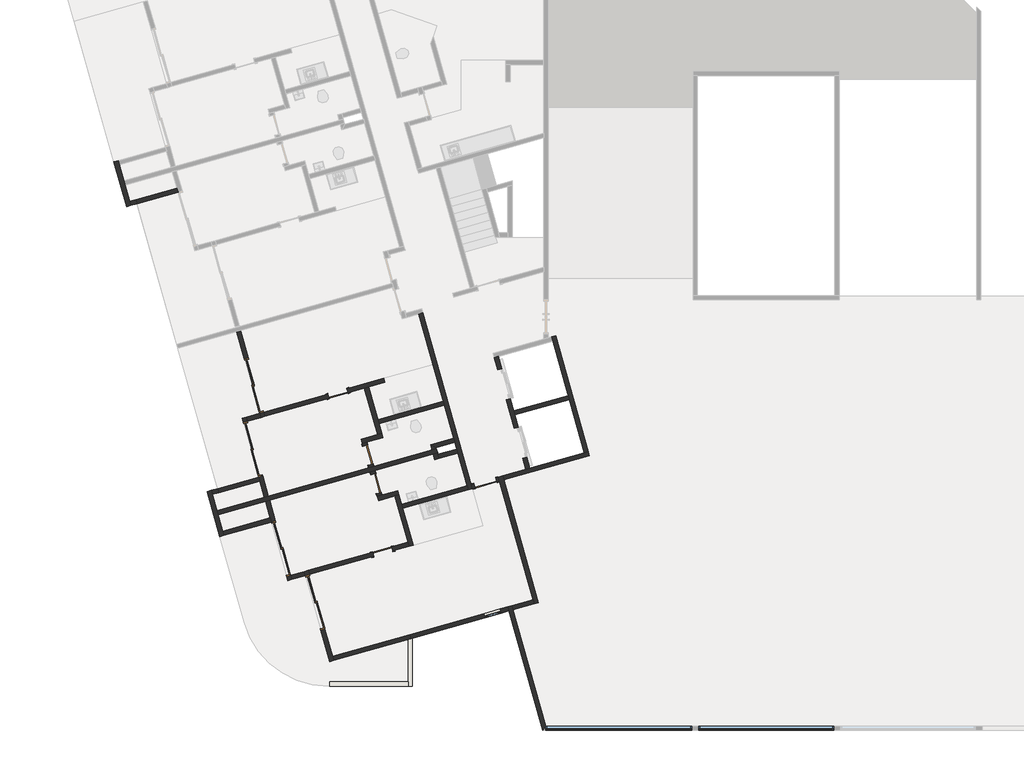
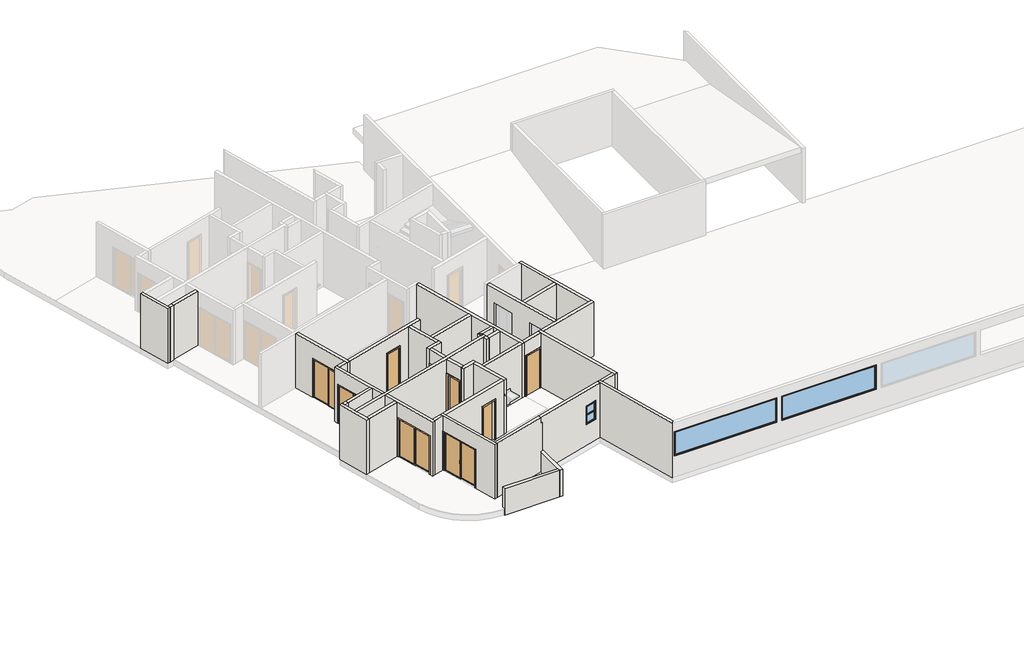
# One storey, part 1 of 4: 41 walls, 9 doors, 3 windows.
"""IFC4 building model written with IfcOpenShell, lengths in millimetres."""

from ifc_helpers import new_model, si_unit, frame, origin, place, context, project, spatial, polyline, outline, extrude, faceted_brep, transform, mapped, element, save
from components import p2_80cm_9d4be4ef, p3_70cm_ef4d15e3, p3_70cm_0a698c7c, p4_correr_200cm_eaaa0877, p4_correr_200cm_830b8f20, bx_60cm_cef95a5c, m_fixo1_jf_4_75m_a83b1cd6, m_fixo1_jf_5_15m_51e2bce7

model = new_model("IFC4")

# Units and contexts
model_context = context("Model", 3, world=origin())
ifc_project = project(units=[si_unit("LENGTHUNIT", "METRE", prefix="MILLI")], contexts=[model_context])

# Site, building, storey
site = spatial("IfcSite", under=ifc_project)
building = spatial("IfcBuilding", under=site)
storey = spatial("IfcBuildingStorey", under=building, Name="Garagem 4", Elevation=39150.0)

# Doors
placement = place(None, origin())
p2_80cm_shape = p2_80cm_9d4be4ef(model_context)
element("IfcDoor", 1, ObjectType="M_Folha única1 : P2 - 80CM", at=placement, inside=storey, context=model_context, shape_type="MappedRepresentation", body=[
    mapped(p2_80cm_shape, transform((-77213.6668366, 12144.847648, 39150.0), x_axis=(0.9623628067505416, 0.2717679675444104, 0.0), y_axis=(-0.2717679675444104, 0.9623628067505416, 0.0), z_axis=(0.0, 0.0, 1.0))),
])
p3_70cm_shape = p3_70cm_ef4d15e3(model_context)
element("IfcDoor", 2, ObjectType="M_Folha única1 : P3 - 70CM", at=placement, inside=storey, context=model_context, shape_type="MappedRepresentation", body=[
    mapped(p3_70cm_shape, transform((-80840.7851368, 9718.5269225, 39150.0), x_axis=(0.9623628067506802, 0.2717679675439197, 0.0), y_axis=(-0.2717679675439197, 0.9623628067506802, 0.0), z_axis=(0.0, 0.0, 1.0))),
])
element("IfcDoor", 3, ObjectType="M_Folha única1 : P3 - 70CM", at=placement, inside=storey, context=model_context, shape_type="MappedRepresentation", body=[
    mapped(p3_70cm_shape, transform((-81362.5862327, 13130.1209218, 39150.0), x_axis=(0.271767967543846, -0.9623628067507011, 0.0), y_axis=(0.9623628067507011, 0.271767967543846, 0.0), z_axis=(0.0, 0.0, 1.0))),
])
p3_70cm_2_shape = p3_70cm_0a698c7c(model_context)
element("IfcDoor", 4, ObjectType="M_Folha única1 : P3 - 70CM", at=placement, inside=storey, context=model_context, shape_type="MappedRepresentation", body=[
    mapped(p3_70cm_2_shape, transform((-81077.2298668, 12119.6399747, 39150.0), x_axis=(-0.27176796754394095, 0.9623628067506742, 0.0), y_axis=(-0.9623628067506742, -0.27176796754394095, 0.0), z_axis=(0.0, 0.0, 1.0))),
])
element("IfcDoor", 5, ObjectType="M_Folha única1 : P3 - 70CM", at=placement, inside=storey, context=model_context, shape_type="MappedRepresentation", body=[
    mapped(p3_70cm_2_shape, transform((-82417.0393485, 15300.2312016, 39150.0), x_axis=(0.9623628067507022, 0.27176796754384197, 0.0), y_axis=(-0.27176796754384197, 0.9623628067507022, 0.0), z_axis=(0.0, 0.0, 1.0))),
])
p4_correr_200cm_shape = p4_correr_200cm_eaaa0877(model_context)
element("IfcDoor", 6, ObjectType="Porta de correr dupla envidraçada sem revestimento : P4 - CORRER - 200CM", at=placement, inside=storey, context=model_context, shape_type="MappedRepresentation", body=[
    mapped(p4_correr_200cm_shape, transform((-84429.028315, 9822.2616509, 39150.0), x_axis=(-0.27176796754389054, 0.9623628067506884, 0.0), y_axis=(-0.9623628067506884, -0.27176796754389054, 0.0), z_axis=(0.0, 0.0, 1.0))),
])
element("IfcDoor", 7, ObjectType="Porta de correr dupla envidraçada sem revestimento : P4 - CORRER - 200CM", at=placement, inside=storey, context=model_context, shape_type="MappedRepresentation", body=[
    mapped(p4_correr_200cm_shape, transform((-83223.012588, 7928.7516937, 39150.0), x_axis=(-0.2717679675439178, 0.9623628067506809, 0.0), y_axis=(-0.9623628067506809, -0.2717679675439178, 0.0), z_axis=(0.0, 0.0, 1.0))),
])
p4_correr_200cm_2_shape = p4_correr_200cm_830b8f20(model_context)
element("IfcDoor", 8, ObjectType="Porta de correr dupla envidraçada sem revestimento : P4 - CORRER - 200CM", at=placement, inside=storey, context=model_context, shape_type="MappedRepresentation", body=[
    mapped(p4_correr_200cm_2_shape, transform((-85383.5679299, 15579.5360073, 39150.0), x_axis=(-0.2717679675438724, 0.9623628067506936, 0.0), y_axis=(-0.9623628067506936, -0.2717679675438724, 0.0), z_axis=(0.0, 0.0, 1.0))),
])
element("IfcDoor", 9, ObjectType="Porta de correr dupla envidraçada sem revestimento : P4 - CORRER - 200CM", at=placement, inside=storey, context=model_context, shape_type="MappedRepresentation", body=[
    mapped(p4_correr_200cm_2_shape, transform((-85420.9813965, 13334.8858955, 39150.0), x_axis=(-0.27176796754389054, 0.9623628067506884, 0.0), y_axis=(-0.9623628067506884, -0.27176796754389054, 0.0), z_axis=(0.0, 0.0, 1.0))),
])

# Walls
element("IfcWall", 10, ObjectType="Básica .15 -  Interna", at=placement, inside=storey, context=model_context, shape_type="Brep", body=[
    faceted_brep([(-75344.9919691, 7919.3931149, 39150.0), (-76567.7484146, 12249.3196164, 39150.0), (-76608.5136097, 12393.6740374, 39150.0), (-76608.5136097, 12393.6740374, 42050.0), (-76567.7484146, 12249.3196164, 42050.0), (-75344.9919691, 7919.3931149, 42050.0), (-75489.3463901, 7878.6279198, 39150.0), (-75489.3463901, 7878.6279198, 42050.0), (-75530.1115852, 8022.9823408, 42050.0), (-76712.1028356, 12208.5544213, 42050.0), (-76752.8680308, 12352.9088423, 42050.0), (-76752.8680308, 12352.9088423, 39150.0), (-76712.1028356, 12208.5544213, 39150.0), (-75530.1115852, 8022.9823408, 39150.0)], [[[0, 1, 2, 3, 4, 5]], [[6, 7, 8, 9, 10, 11, 12, 13]], [[2, 1, 0, 6, 13, 12, 11]], [[5, 4, 3, 10, 9, 8, 7]], [[3, 2, 11, 10]], [[0, 5, 7, 6]]]),
])
element("IfcWall", 11, ObjectType="Básica .15 -  Interna", at=placement, inside=storey, context=model_context, shape_type="Brep", body=[
    faceted_brep([(-79571.9228624, 18103.967491, 39150.0), (-78702.2653663, 15024.4065094, 39150.0), (-78661.5001712, 14880.0520884, 39150.0), (-78335.3786101, 13725.2167203, 39150.0), (-78294.613415, 13580.8622993, 39150.0), (-78226.6714231, 13340.2715976, 39150.0), (-78185.906228, 13195.9171766, 39150.0), (-77818.8200634, 11896.0212586, 39150.0), (-77818.8200634, 11896.0212586, 42050.0), (-78185.906228, 13195.9171766, 42050.0), (-78226.6714231, 13340.2715976, 42050.0), (-78294.613415, 13580.8622993, 42050.0), (-78335.3786101, 13725.2167203, 42050.0), (-78661.5001712, 14880.0520884, 42050.0), (-78702.2653663, 15024.4065094, 42050.0), (-79571.9228624, 18103.967491, 42050.0), (-79427.5684414, 18144.7326862, 39150.0), (-79427.5684414, 18144.7326862, 42050.0), (-77715.2308375, 12081.1408747, 42050.0), (-77674.4656424, 11936.7864537, 42050.0), (-77674.4656424, 11936.7864537, 39150.0), (-77715.2308375, 12081.1408747, 39150.0)], [[[0, 1, 2, 3, 4, 5, 6, 7, 8, 9, 10, 11, 12, 13, 14, 15]], [[16, 17, 18, 19, 20, 21]], [[7, 6, 5, 4, 3, 2, 1, 0, 16, 21, 20]], [[15, 14, 13, 12, 11, 10, 9, 8, 19, 18, 17]], [[0, 15, 17, 16]], [[8, 7, 20, 19]]]),
])
element("IfcWall", 12, ObjectType="Básica .15 -  Interna", at=placement, inside=storey, context=model_context, shape_type="Brep", body=[
    faceted_brep([(-85017.5646639, 11630.3683862, 42050.0), (-85180.6254444, 12207.7860702, 42050.0), (-85221.3906395, 12352.1404912, 42050.0), (-85805.6917697, 14421.2205257, 42050.0), (-85805.6917697, 14421.2205257, 39150.0), (-85764.9265746, 14276.8661047, 39150.0), (-85764.9265746, 14276.8661047, 41250.0), (-85221.3906395, 12352.1404912, 41250.0), (-85221.3906395, 12352.1404912, 39150.0), (-85180.6254444, 12207.7860702, 39150.0), (-85017.5646639, 11630.3683862, 39150.0), (-85661.3373487, 14461.9857209, 42050.0), (-85620.5721536, 14317.6312998, 42050.0), (-84873.2102428, 11671.1335813, 42050.0), (-84873.2102428, 11671.1335813, 39150.0), (-85077.0362185, 12392.9056863, 39150.0), (-85077.0362185, 12392.9056863, 41250.0), (-85620.5721536, 14317.6312998, 41250.0), (-85620.5721536, 14317.6312998, 39150.0), (-85661.3373487, 14461.9857209, 39150.0)], [[[0, 1, 2, 3, 4, 5, 6, 7, 8, 9, 10]], [[11, 12, 13, 14, 15, 16, 17, 18, 19]], [[4, 19, 18, 5]], [[14, 10, 9, 8, 15]], [[3, 2, 1, 0, 13, 12, 11]], [[4, 3, 11, 19]], [[0, 10, 14, 13]], [[17, 6, 5, 18]], [[6, 17, 16, 7]], [[7, 16, 15, 8]]]),
])
element("IfcWall", 13, ObjectType="Básica .15 -  Interna", at=placement, inside=storey, context=model_context, shape_type="Brep", body=[
    faceted_brep([(-82710.8886682, 5839.2890616, 42050.0), (-83566.957766, 8870.7319029, 42050.0), (-83607.7229611, 9015.0863239, 42050.0), (-83607.7229611, 9015.0863239, 39150.0), (-83566.957766, 8870.7319029, 39150.0), (-83566.957766, 8870.7319029, 41250.0), (-83023.4218309, 6946.0062894, 41250.0), (-83023.4218309, 6946.0062894, 39150.0), (-82710.8886682, 5839.2890616, 39150.0), (-83463.3685401, 9055.851519, 42050.0), (-83422.603345, 8911.497098, 42050.0), (-82607.2994424, 6024.4086777, 42050.0), (-82566.5342472, 5880.0542567, 42050.0), (-82566.5342472, 5880.0542567, 39150.0), (-82607.2994424, 6024.4086777, 39150.0), (-82879.0674099, 6986.7714845, 39150.0), (-82879.0674099, 6986.7714845, 41250.0), (-83422.603345, 8911.497098, 41250.0), (-83422.603345, 8911.497098, 39150.0), (-83463.3685401, 9055.851519, 39150.0)], [[[0, 1, 2, 3, 4, 5, 6, 7, 8]], [[9, 10, 11, 12, 13, 14, 15, 16, 17, 18, 19]], [[3, 19, 18, 4]], [[13, 8, 7, 15, 14]], [[2, 1, 0, 12, 11, 10, 9]], [[3, 2, 9, 19]], [[0, 8, 13, 12]], [[17, 5, 4, 18]], [[5, 17, 16, 6]], [[6, 16, 15, 7]]]),
])
element("IfcWall", 14, ObjectType="Básica .15 - Externa", at=placement, inside=storey, context=model_context, shape_type="Brep", body=[
    faceted_brep([(-79945.4990038, 6620.2256515, 40250.0), (-79945.4990038, 6620.2256515, 39150.0), (-79945.4990038, 6620.2256515, 38850.0), (-79945.4990038, 5119.4122055, 38850.0), (-79945.4990038, 4969.4122055, 38850.0), (-79945.4990038, 4969.4122055, 40250.0), (-79945.4990038, 5119.4122055, 40250.0), (-79795.4990038, 6662.5851389, 38850.0), (-79795.4990038, 6662.5851389, 40250.0), (-79795.4990038, 4969.4122055, 40250.0), (-79795.4990038, 4969.4122055, 38850.0), (-79850.1164062, 6647.1613711, 38850.0)], [[[0, 1, 2, 3, 4, 5, 6]], [[7, 8, 9, 10]], [[4, 3, 2, 11, 7, 10]], [[0, 6, 5, 9, 8]], [[5, 4, 10, 9]], [[0, 8, 7, 11, 2, 1]]]),
])
element("IfcWall", 15, ObjectType="Básica .15 - Externa", at=placement, inside=storey, context=model_context, shape_type="SweptSolid", body=[
    extrude(outline(polyline([(-82713.5540687, 5119.4122055), (-79945.4990038, 5119.4122055), (-79945.4990038, 4969.4122055), (-82713.5540687, 4969.4122055), (-82713.5540687, 5119.4122055)])), frame((0.0, 0.0, 38850.0), z_axis=(0.0, 0.0, 1.0), x_axis=(1.0, 0.0, 0.0)), (0.0, 0.0, 1.0), 1400.0),
])
element("IfcWall", 16, ObjectType="Básica .15 -  Interna", at=placement, inside=storey, context=model_context, shape_type="Brep", body=[
    faceted_brep([(-73581.8825825, 13248.3842954, 39150.0), (-73726.2370035, 13207.6191002, 39150.0), (-75646.150803, 12665.442005, 39150.0), (-75790.505224, 12624.6768098, 39150.0), (-76608.5136097, 12393.6740374, 39150.0), (-76608.5136097, 12393.6740374, 42050.0), (-75790.505224, 12624.6768098, 42050.0), (-75646.150803, 12665.442005, 42050.0), (-73726.2370035, 13207.6191002, 42050.0), (-73581.8825825, 13248.3842954, 42050.0), (-73541.1173874, 13104.0298743, 39150.0), (-73541.1173874, 13104.0298743, 42050.0), (-76567.7484146, 12249.3196164, 42050.0), (-76567.7484146, 12249.3196164, 39150.0)], [[[0, 1, 2, 3, 4, 5, 6, 7, 8, 9]], [[10, 11, 12, 13]], [[4, 3, 2, 1, 0, 10, 13]], [[9, 8, 7, 6, 5, 12, 11]], [[0, 9, 11, 10]], [[5, 4, 13, 12]]]),
])
element("IfcWall", 17, ObjectType="Básica .15 -  Interna", at=placement, inside=storey, context=model_context, shape_type="Brep", body=[
    faceted_brep([(-74881.2508656, 17297.6610289, 39150.0), (-74840.4856705, 17153.3066079, 39150.0), (-74296.9497354, 15228.5809944, 39150.0), (-74256.1845402, 15084.2265734, 39150.0), (-73726.2370035, 13207.6191002, 39150.0), (-73726.2370035, 13207.6191002, 42050.0), (-74256.1845402, 15084.2265734, 42050.0), (-74296.9497354, 15228.5809944, 42050.0), (-74840.4856705, 17153.3066079, 42050.0), (-74881.2508656, 17297.6610289, 42050.0), (-74736.8964446, 17338.426224, 39150.0), (-74736.8964446, 17338.426224, 42050.0), (-73581.8825825, 13248.3842954, 42050.0), (-73581.8825825, 13248.3842954, 39150.0)], [[[0, 1, 2, 3, 4, 5, 6, 7, 8, 9]], [[10, 11, 12, 13]], [[4, 3, 2, 1, 0, 10, 13]], [[9, 8, 7, 6, 5, 12, 11]], [[5, 4, 13, 12]], [[0, 9, 11, 10]]]),
])
element("IfcWall", 18, ObjectType="Básica .15 -  Interna", at=placement, inside=storey, context=model_context, shape_type="Brep", body=[
    faceted_brep([(-76483.167581, 15077.4768805, 39150.0), (-76197.8112151, 14066.9959334, 39150.0), (-76197.8112151, 14066.9959334, 41275.0), (-75898.8664508, 13008.396846, 41275.0), (-75898.8664508, 13008.396846, 39150.0), (-75790.505224, 12624.6768098, 39150.0), (-75790.505224, 12624.6768098, 42050.0), (-76904.7538909, 16570.3643175, 42050.0), (-76904.7538909, 16570.3643175, 39150.0), (-76782.1123453, 16136.075968, 39150.0), (-76782.1123453, 16136.075968, 41275.0), (-76483.167581, 15077.4768805, 41275.0), (-76053.4567941, 14107.7611286, 41275.0), (-76053.4567941, 14107.7611286, 39150.0), (-76176.0983397, 14542.0494781, 39150.0), (-76216.8635348, 14686.4038991, 39150.0), (-76338.81316, 15118.2420757, 39150.0), (-76338.81316, 15118.2420757, 41275.0), (-76637.7579243, 16176.8411631, 41275.0), (-76637.7579243, 16176.8411631, 39150.0), (-76760.3994699, 16611.1295126, 39150.0), (-76760.3994699, 16611.1295126, 42050.0), (-76216.8635348, 14686.4038991, 42050.0), (-76176.0983397, 14542.0494781, 42050.0), (-75646.150803, 12665.442005, 42050.0), (-75646.150803, 12665.442005, 39150.0), (-75754.5120298, 13049.1620412, 39150.0), (-75754.5120298, 13049.1620412, 41275.0)], [[[0, 1, 2, 3, 4, 5, 6, 7, 8, 9, 10, 11]], [[12, 13, 14, 15, 16, 17, 18, 19, 20, 21, 22, 23, 24, 25, 26, 27]], [[9, 8, 20, 19]], [[26, 25, 5, 4]], [[16, 15, 14, 13, 1, 0]], [[7, 6, 24, 23, 22, 21]], [[8, 7, 21, 20]], [[6, 5, 25, 24]], [[4, 3, 27, 26]], [[2, 1, 13, 12]], [[3, 2, 12, 27]], [[19, 18, 10, 9]], [[17, 16, 0, 11]], [[18, 17, 11, 10]]]),
])
element("IfcWall", 19, ObjectType="Básica .15 -  Interna", at=placement, inside=storey, context=model_context, shape_type="SweptSolid", body=[
    extrude(outline(polyline([(-74256.1845402, 15084.2265734), (-76176.0983397, 14542.0494781), (-76216.8635348, 14686.4038991), (-74296.9497354, 15228.5809944), (-74256.1845402, 15084.2265734)])), frame((0.0, 0.0, 39150.0), z_axis=(0.0, 0.0, 1.0), x_axis=(1.0, 0.0, 0.0)), (0.0, 0.0, 1.0), 2900.0),
])
element("IfcWall", 20, ObjectType="Básica .15 -  Interna", at=placement, inside=storey, context=model_context, shape_type="Brep", body=[
    faceted_brep([(-82566.5342472, 5880.0542567, 39150.0), (-79945.4990038, 6620.2256515, 39150.0), (-79850.1164062, 6647.1613711, 39150.0), (-79850.1164062, 6647.1613711, 41750.0), (-79945.4990038, 6620.2256515, 41750.0), (-79945.4990038, 6620.2256515, 42050.0), (-82566.5342472, 5880.0542567, 42050.0), (-82607.2994424, 6024.4086777, 39150.0), (-82607.2994424, 6024.4086777, 42050.0), (-79945.4990038, 6776.0920243, 42050.0), (-79945.4990038, 6776.0920243, 41750.0), (-79890.8816014, 6791.5157921, 41750.0), (-79890.8816014, 6791.5157921, 39150.0), (-79945.4990038, 6776.0920243, 39150.0)], [[[0, 1, 2, 3, 4, 5, 6]], [[7, 8, 9, 10, 11, 12, 13]], [[2, 1, 0, 7, 13, 12]], [[6, 5, 9, 8]], [[0, 6, 8, 7]], [[2, 12, 11, 3]], [[10, 4, 3, 11]], [[5, 4, 10, 9]]]),
])
element("IfcWall", 21, ObjectType="Básica .15 -  Interna", at=placement, inside=storey, context=model_context, shape_type="Brep", body=[
    faceted_brep([(-85221.3906395, 12352.1404912, 39150.0), (-86668.7560772, 11943.4094383, 39150.0), (-86668.7560772, 11943.4094383, 42050.0), (-85221.3906395, 12352.1404912, 42050.0), (-85221.3906395, 12352.1404912, 41250.0), (-85180.6254444, 12207.7860702, 39150.0), (-85180.6254444, 12207.7860702, 42050.0), (-86627.9908821, 11799.0550173, 42050.0), (-86627.9908821, 11799.0550173, 39150.0)], [[[0, 1, 2, 3, 4]], [[5, 6, 7, 8]], [[1, 0, 5, 8]], [[2, 1, 8, 7]], [[3, 2, 7, 6]], [[0, 4, 3, 6, 5]]]),
])
element("IfcWall", 22, ObjectType="Básica .15 - Externa", at=placement, inside=storey, context=model_context, shape_type="Brep", body=[
    faceted_brep([(-86444.4738537, 10292.215871, 39150.0), (-86485.2390488, 10436.570292, 39150.0), (-86648.2998293, 11013.987976, 39150.0), (-86689.0650245, 11158.342397, 39150.0), (-86852.125805, 11735.7600811, 39150.0), (-86892.8910001, 11880.1145021, 39150.0), (-86892.8910001, 11880.1145021, 42050.0), (-86852.125805, 11735.7600811, 42050.0), (-86689.0650245, 11158.342397, 42050.0), (-86648.2998293, 11013.987976, 42050.0), (-86485.2390488, 10436.570292, 42050.0), (-86444.4738537, 10292.215871, 42050.0), (-86588.8282747, 10251.4506758, 39150.0), (-86588.8282747, 10251.4506758, 42050.0), (-87037.2454211, 11839.349307, 42050.0), (-87037.2454211, 11839.349307, 39150.0)], [[[0, 1, 2, 3, 4, 5, 6, 7, 8, 9, 10, 11]], [[12, 13, 14, 15]], [[5, 4, 3, 2, 1, 0, 12, 15]], [[11, 10, 9, 8, 7, 6, 14, 13]], [[6, 5, 15, 14]], [[0, 11, 13, 12]]]),
])
element("IfcWall", 23, ObjectType="Básica .15 -  Interna", at=placement, inside=storey, context=model_context, shape_type="Brep", body=[
    faceted_brep([(-86444.4738537, 10292.215871, 39150.0), (-84772.9734931, 10764.2418601, 39150.0), (-84772.9734931, 10764.2418601, 41250.0), (-84772.9734931, 10764.2418601, 42050.0), (-86444.4738537, 10292.215871, 42050.0), (-86485.2390488, 10436.570292, 39150.0), (-86485.2390488, 10436.570292, 42050.0), (-84813.7386882, 10908.5962811, 42050.0), (-84813.7386882, 10908.5962811, 39150.0)], [[[0, 1, 2, 3, 4]], [[5, 6, 7, 8]], [[1, 0, 5, 8]], [[4, 3, 7, 6]], [[0, 4, 6, 5]], [[3, 2, 1, 8, 7]]]),
])
element("IfcWall", 24, ObjectType="Básica .15 - Externa", at=placement, inside=storey, context=model_context, shape_type="Brep", body=[
    faceted_brep([(-89732.866261, 21936.8058326, 39150.0), (-89773.6314561, 22081.1602536, 39150.0), (-89936.6922366, 22658.5779377, 39150.0), (-89977.4574318, 22802.9323587, 39150.0), (-90140.5182123, 23380.3500428, 39150.0), (-90181.2834074, 23524.7044638, 39150.0), (-90181.2834074, 23524.7044638, 42050.0), (-90140.5182123, 23380.3500428, 42050.0), (-89977.4574318, 22802.9323587, 42050.0), (-89936.6922366, 22658.5779377, 42050.0), (-89773.6314561, 22081.1602536, 42050.0), (-89732.866261, 21936.8058326, 42050.0), (-89877.220682, 21896.0406375, 39150.0), (-89877.220682, 21896.0406375, 42050.0), (-90325.6378284, 23483.9392686, 42050.0), (-90325.6378284, 23483.9392686, 39150.0)], [[[0, 1, 2, 3, 4, 5, 6, 7, 8, 9, 10, 11]], [[12, 13, 14, 15]], [[5, 4, 3, 2, 1, 0, 12, 15]], [[11, 10, 9, 8, 7, 6, 14, 13]], [[0, 11, 13, 12]], [[6, 5, 15, 14]]]),
])
element("IfcWall", 25, ObjectType="Básica .15 -  Interna", at=placement, inside=storey, context=model_context, shape_type="Brep", body=[
    faceted_brep([(-88102.1310955, 22553.1862428, 39150.0), (-89549.4965332, 22144.4551899, 39150.0), (-89549.4965332, 22144.4551899, 42050.0), (-88102.1310955, 22553.1862428, 42050.0), (-88061.3659003, 22408.8318218, 39150.0), (-88061.3659003, 22408.8318218, 41250.0), (-88061.3659003, 22408.8318218, 42050.0), (-89508.731338, 22000.1007688, 42050.0), (-89508.731338, 22000.1007688, 39150.0)], [[[0, 1, 2, 3]], [[4, 5, 6, 7, 8]], [[1, 0, 4, 8]], [[2, 1, 8, 7]], [[3, 2, 7, 6]], [[0, 3, 6, 5, 4]]]),
])
element("IfcWall", 26, ObjectType="Básica .15 -  Interna", at=placement, inside=storey, context=model_context, shape_type="Brep", body=[
    faceted_brep([(-83607.7229611, 9015.0863239, 39150.0), (-84085.083137, 8880.2814417, 39150.0), (-84085.083137, 8880.2814417, 41250.0), (-84085.083137, 8880.2814417, 42050.0), (-83607.7229611, 9015.0863239, 42050.0), (-83566.957766, 8870.7319029, 39150.0), (-83566.957766, 8870.7319029, 41250.0), (-83566.957766, 8870.7319029, 42050.0), (-84044.3179418, 8735.9270207, 42050.0), (-84044.3179418, 8735.9270207, 39150.0)], [[[0, 1, 2, 3, 4]], [[5, 6, 7, 8, 9]], [[1, 0, 5, 9]], [[4, 3, 8, 7]], [[3, 2, 1, 9, 8]], [[0, 4, 7, 6, 5]]]),
])
element("IfcWall", 27, ObjectType="Básica .15 -  Interna", at=placement, inside=storey, context=model_context, shape_type="Brep", body=[
    faceted_brep([(-85183.9771729, 14596.790603, 39150.0), (-85661.3373487, 14461.9857209, 39150.0), (-85661.3373487, 14461.9857209, 42050.0), (-85183.9771729, 14596.790603, 42050.0), (-85183.9771729, 14596.790603, 41250.0), (-85143.2119778, 14452.436182, 39150.0), (-85143.2119778, 14452.436182, 42050.0), (-85620.5721536, 14317.6312998, 42050.0), (-85620.5721536, 14317.6312998, 41250.0), (-85620.5721536, 14317.6312998, 39150.0)], [[[0, 1, 2, 3, 4]], [[5, 6, 7, 8, 9]], [[1, 0, 5, 9]], [[3, 2, 7, 6]], [[2, 1, 9, 8, 7]], [[0, 4, 3, 6, 5]]]),
])
element("IfcWall", 28, ObjectType="Básica .15 -  Interna", at=placement, inside=storey, context=model_context, shape_type="Brep", body=[
    faceted_brep([(-85143.2119778, 14452.436182, 42050.0), (-85183.9771729, 14596.790603, 42050.0), (-85992.4868763, 17459.8199531, 42050.0), (-85992.4868763, 17459.8199531, 39150.0), (-85727.513108, 16521.5162165, 39150.0), (-85727.513108, 16521.5162165, 41250.0), (-85183.9771729, 14596.790603, 41250.0), (-85183.9771729, 14596.790603, 39150.0), (-85143.2119778, 14452.436182, 39150.0), (-85848.1324553, 17500.5851482, 42050.0), (-85039.6227519, 14637.5557982, 42050.0), (-84998.8575568, 14493.2013772, 42050.0), (-84998.8575568, 14493.2013772, 39150.0), (-85039.6227519, 14637.5557982, 39150.0), (-85039.6227519, 14637.5557982, 41250.0), (-85583.158687, 16562.2814117, 41250.0), (-85583.158687, 16562.2814117, 39150.0), (-85848.1324553, 17500.5851482, 39150.0)], [[[0, 1, 2, 3, 4, 5, 6, 7, 8]], [[9, 10, 11, 12, 13, 14, 15, 16, 17]], [[3, 17, 16, 4]], [[12, 8, 7, 13]], [[2, 1, 0, 11, 10, 9]], [[3, 2, 9, 17]], [[0, 8, 12, 11]], [[15, 5, 4, 16]], [[5, 15, 14, 6]], [[6, 14, 13, 7]]]),
])
element("IfcWall", 29, ObjectType="Básica .15 -  Interna", at=placement, inside=storey, context=model_context, shape_type="Brep", body=[
    faceted_brep([(-78945.0553533, 13345.2242614, 39150.0), (-81168.1134369, 12717.4402563, 39150.0), (-81312.4678579, 12676.6750612, 39150.0), (-84873.2102428, 11671.1335813, 39150.0), (-85017.5646639, 11630.3683862, 39150.0), (-86689.0650245, 11158.342397, 39150.0), (-86689.0650245, 11158.342397, 42050.0), (-85017.5646639, 11630.3683862, 42050.0), (-84873.2102428, 11671.1335813, 42050.0), (-81312.4678579, 12676.6750612, 42050.0), (-81168.1134369, 12717.4402563, 42050.0), (-78945.0553533, 13345.2242614, 42050.0), (-78904.2901581, 13200.8698403, 39150.0), (-78904.2901581, 13200.8698403, 42050.0), (-81127.3482417, 12573.0858353, 42050.0), (-81271.7026627, 12532.3206402, 42050.0), (-84832.4450477, 11526.7791603, 42050.0), (-84976.7994687, 11486.0139651, 42050.0), (-86648.2998293, 11013.987976, 42050.0), (-86648.2998293, 11013.987976, 39150.0), (-84976.7994687, 11486.0139651, 39150.0), (-84832.4450477, 11526.7791603, 39150.0), (-81271.7026627, 12532.3206402, 39150.0), (-81127.3482417, 12573.0858353, 39150.0)], [[[0, 1, 2, 3, 4, 5, 6, 7, 8, 9, 10, 11]], [[12, 13, 14, 15, 16, 17, 18, 19, 20, 21, 22, 23]], [[5, 4, 3, 2, 1, 0, 12, 23, 22, 21, 20, 19]], [[11, 10, 9, 8, 7, 6, 18, 17, 16, 15, 14, 13]], [[0, 11, 13, 12]], [[6, 5, 19, 18]]]),
])
element("IfcWall", 30, ObjectType="Básica .15 -  Interna", at=placement, inside=storey, context=model_context, shape_type="Brep", body=[
    faceted_brep([(-84188.6723628, 8695.1618256, 42050.0), (-84772.9734931, 10764.2418601, 42050.0), (-84813.7386882, 10908.5962811, 42050.0), (-84976.7994687, 11486.0139651, 42050.0), (-84976.7994687, 11486.0139651, 39150.0), (-84813.7386882, 10908.5962811, 39150.0), (-84772.9734931, 10764.2418601, 39150.0), (-84772.9734931, 10764.2418601, 41250.0), (-84229.437558, 8839.5162466, 41250.0), (-84229.437558, 8839.5162466, 39150.0), (-84188.6723628, 8695.1618256, 39150.0), (-84832.4450477, 11526.7791603, 42050.0), (-84085.083137, 8880.2814417, 42050.0), (-84044.3179418, 8735.9270207, 42050.0), (-84044.3179418, 8735.9270207, 39150.0), (-84085.083137, 8880.2814417, 39150.0), (-84085.083137, 8880.2814417, 41250.0), (-84628.6190721, 10805.0070552, 41250.0), (-84628.6190721, 10805.0070552, 39150.0), (-84832.4450477, 11526.7791603, 39150.0)], [[[0, 1, 2, 3, 4, 5, 6, 7, 8, 9, 10]], [[11, 12, 13, 14, 15, 16, 17, 18, 19]], [[14, 10, 9, 15]], [[4, 19, 18, 6, 5]], [[3, 2, 1, 0, 13, 12, 11]], [[0, 10, 14, 13]], [[4, 3, 11, 19]], [[17, 7, 6, 18]], [[7, 17, 16, 8]], [[8, 16, 15, 9]]]),
])
element("IfcWall", 31, ObjectType="Básica .15 - Externa", at=placement, inside=storey, context=model_context, shape_type="SweptSolid", body=[
    extrude(outline(polyline([(-89773.6314561, 22081.1602536), (-89549.4965332, 22144.4551899), (-89508.731338, 22000.1007688), (-89732.866261, 21936.8058326), (-89773.6314561, 22081.1602536)])), frame((0.0, 0.0, 39150.0), z_axis=(0.0, 0.0, 1.0), x_axis=(1.0, 0.0, 0.0)), (0.0, 0.0, 1.0), 2900.0),
])
element("IfcWall", 32, ObjectType="Básica .15 - Externa", at=placement, inside=storey, context=model_context, shape_type="SweptSolid", body=[
    extrude(outline(polyline([(-86892.8910001, 11880.1145021), (-86668.7560772, 11943.4094383), (-86627.9908821, 11799.0550173), (-86852.125805, 11735.7600811), (-86892.8910001, 11880.1145021)])), frame((0.0, 0.0, 39150.0), z_axis=(0.0, 0.0, 1.0), x_axis=(1.0, 0.0, 0.0)), (0.0, 0.0, 1.0), 2900.0),
])
element("IfcWall", 33, ObjectType="Básica .15 -  Interna", at=placement, inside=storey, context=model_context, shape_type="SweptSolid", body=[
    extrude(outline(polyline([(-80169.4554031, 11388.8386864), (-77859.7846669, 12041.0818085), (-77819.0194718, 11896.7273875), (-80128.690208, 11244.4842654), (-80169.4554031, 11388.8386864)])), frame((0.0, 0.0, 39150.0), z_axis=(0.0, 0.0, 1.0), x_axis=(1.0, 0.0, 0.0)), (0.0, 0.0, 1.0), 2900.0),
])
element("IfcWall", 34, ObjectType="Básica .15 -  Interna", at=placement, inside=storey, context=model_context, shape_type="SweptSolid", body=[
    extrude(outline(polyline([(-78185.906228, 13195.9171766), (-78849.9365646, 13008.397279), (-78890.7017597, 13152.7517), (-78226.6714231, 13340.2715976), (-78185.906228, 13195.9171766)])), frame((0.0, 0.0, 39150.0), z_axis=(0.0, 0.0, 1.0), x_axis=(1.0, 0.0, 0.0)), (0.0, 0.0, 1.0), 2900.0),
])
element("IfcWall", 35, ObjectType="Básica .15 -  Interna", at=placement, inside=storey, context=model_context, shape_type="Brep", body=[
    faceted_brep([(-80986.3462968, 11521.8396931, 39150.0), (-80408.9286128, 11684.9004736, 39150.0), (-80264.5741917, 11725.6656688, 39150.0), (-80264.5741917, 11725.6656688, 42050.0), (-80408.9286128, 11684.9004736, 42050.0), (-80986.3462968, 11521.8396931, 42050.0), (-81027.1114919, 11666.1941141, 39150.0), (-81027.1114919, 11666.1941141, 42050.0), (-80882.7570709, 11706.9593092, 42050.0), (-80305.3393869, 11870.0200898, 42050.0), (-80305.3393869, 11870.0200898, 39150.0), (-80882.7570709, 11706.9593092, 39150.0)], [[[0, 1, 2, 3, 4, 5]], [[6, 7, 8, 9, 10, 11]], [[2, 1, 0, 6, 11, 10]], [[5, 4, 3, 9, 8, 7]], [[0, 5, 7, 6]], [[3, 2, 10, 9]]]),
])
element("IfcWall", 36, ObjectType="Básica .15 -  Interna", at=placement, inside=storey, context=model_context, shape_type="SweptSolid", body=[
    extrude(outline(polyline([(900.0, -2900.0), (0.0, -2900.0), (0.0, 0.0), (100.0, 0.0), (100.0, -2100.0), (800.0, -2100.0), (800.0, 0.0), (900.0, 0.0), (900.0, -2900.0)])), frame((-81271.7026627, 12532.3206402, 39150.0), z_axis=(0.9623628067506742, 0.271767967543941, 0.0), x_axis=(0.271767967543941, -0.9623628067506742, 0.0)), (0.0, 0.0, 1.0), 150.0),
])
element("IfcWall", 37, ObjectType="Básica .15 -  Interna", at=placement, inside=storey, context=model_context, shape_type="Brep", body=[
    faceted_brep([(-80408.9286128, 11684.9004736, 39150.0), (-79946.9230679, 10048.8837021, 39150.0), (-79906.1578728, 9904.5292811, 39150.0), (-79906.1578728, 9904.5292811, 42050.0), (-79946.9230679, 10048.8837021, 42050.0), (-80408.9286128, 11684.9004736, 42050.0), (-80264.5741917, 11725.6656688, 39150.0), (-80264.5741917, 11725.6656688, 42050.0), (-80169.4554031, 11388.8386864, 42050.0), (-80128.690208, 11244.4842654, 42050.0), (-79761.8034518, 9945.2944763, 42050.0), (-79761.8034518, 9945.2944763, 39150.0), (-80128.690208, 11244.4842654, 39150.0), (-80169.4554031, 11388.8386864, 39150.0)], [[[0, 1, 2, 3, 4, 5]], [[6, 7, 8, 9, 10, 11, 12, 13]], [[2, 1, 0, 6, 13, 12, 11]], [[5, 4, 3, 10, 9, 8, 7]], [[3, 2, 11, 10]], [[0, 5, 7, 6]]]),
])
element("IfcWall", 38, ObjectType="Básica .15 -  Interna", at=placement, inside=storey, context=model_context, shape_type="Brep", body=[
    faceted_brep([(-79946.9230679, 10048.8837021, 39150.0), (-80524.340752, 9885.8229216, 39150.0), (-80524.340752, 9885.8229216, 41250.0), (-81197.9947167, 9695.5853443, 41250.0), (-81197.9947167, 9695.5853443, 39150.0), (-83463.3685401, 9055.851519, 39150.0), (-83463.3685401, 9055.851519, 42050.0), (-79946.9230679, 10048.8837021, 42050.0), (-80483.5755569, 9741.4685006, 41250.0), (-80483.5755569, 9741.4685006, 39150.0), (-79906.1578728, 9904.5292811, 39150.0), (-79906.1578728, 9904.5292811, 42050.0), (-83422.603345, 8911.497098, 42050.0), (-83422.603345, 8911.497098, 41250.0), (-83422.603345, 8911.497098, 39150.0), (-81157.2295216, 9551.2309233, 39150.0), (-81157.2295216, 9551.2309233, 41250.0)], [[[0, 1, 2, 3, 4, 5, 6, 7]], [[8, 9, 10, 11, 12, 13, 14, 15, 16]], [[15, 14, 5, 4]], [[10, 9, 1, 0]], [[7, 6, 12, 11]], [[2, 1, 9, 8]], [[3, 2, 8, 16]], [[4, 3, 16, 15]], [[0, 7, 11, 10]], [[6, 5, 14, 13, 12]]]),
])
element("IfcWall", 39, ObjectType="Básica .15 -  Interna", at=placement, inside=storey, context=model_context, shape_type="Brep", body=[
    faceted_brep([(-79048.6445791, 13160.1046452, 39150.0), (-78994.2909856, 12967.6320839, 39150.0), (-78994.2909856, 12967.6320839, 42050.0), (-79048.6445791, 13160.1046452, 42050.0), (-78904.2901581, 13200.8698403, 39150.0), (-78904.2901581, 13200.8698403, 42050.0), (-78890.7017597, 13152.7517, 42050.0), (-78849.9365646, 13008.397279, 42050.0), (-78849.9365646, 13008.397279, 39150.0), (-78890.7017597, 13152.7517, 39150.0)], [[[0, 1, 2, 3]], [[4, 5, 6, 7, 8, 9]], [[1, 0, 4, 9, 8]], [[3, 2, 7, 6, 5]], [[0, 3, 5, 4]], [[2, 1, 8, 7]]]),
])
element("IfcWall", 40, ObjectType="Básica .15 -  Interna", at=placement, inside=storey, context=model_context, shape_type="SweptSolid", body=[
    extrude(outline(polyline([(-79143.7633678, 13496.9316276), (-78335.3786101, 13725.2167203), (-78294.613415, 13580.8622993), (-78958.6437516, 13393.3424017), (-79143.7633678, 13496.9316276)])), frame((0.0, 0.0, 39150.0), z_axis=(0.0, 0.0, 1.0), x_axis=(1.0, 0.0, 0.0)), (0.0, 0.0, 1.0), 2900.0),
])
element("IfcWall", 41, ObjectType="Básica .15 -  Interna", at=placement, inside=storey, context=model_context, shape_type="SweptSolid", body=[
    extrude(outline(polyline([(-79089.4097743, 13304.4590662), (-79143.7633678, 13496.9316276), (-78958.6437516, 13393.3424017), (-78945.0553533, 13345.2242614), (-79089.4097743, 13304.4590662)])), frame((0.0, 0.0, 39150.0), z_axis=(0.0, 0.0, 1.0), x_axis=(1.0, 0.0, 0.0)), (0.0, 0.0, 1.0), 2900.0),
])
element("IfcWall", 42, ObjectType="Básica .15 -  Interna", at=placement, inside=storey, context=model_context, shape_type="Brep", body=[
    faceted_brep([(-80876.0521187, 13890.981984, 39150.0), (-81020.4065397, 13850.2167888, 39150.0), (-81597.8242238, 13687.1560083, 39150.0), (-81597.8242238, 13687.1560083, 42050.0), (-81020.4065397, 13850.2167888, 42050.0), (-80876.0521187, 13890.981984, 42050.0), (-80835.2869236, 13746.6275629, 39150.0), (-80835.2869236, 13746.6275629, 42050.0), (-81412.7046076, 13583.5667824, 42050.0), (-81557.0590287, 13542.8015873, 42050.0), (-81557.0590287, 13542.8015873, 39150.0), (-81412.7046076, 13583.5667824, 39150.0)], [[[0, 1, 2, 3, 4, 5]], [[6, 7, 8, 9, 10, 11]], [[2, 1, 0, 6, 11, 10]], [[5, 4, 3, 9, 8, 7]], [[0, 5, 7, 6]], [[3, 2, 10, 9]]]),
])
element("IfcWall", 43, ObjectType="Básica .15 -  Interna", at=placement, inside=storey, context=model_context, shape_type="Brep", body=[
    faceted_brep([(-81482.4120846, 15486.2335603, 39150.0), (-81020.4065397, 13850.2167888, 39150.0), (-81020.4065397, 13850.2167888, 42050.0), (-81482.4120846, 15486.2335603, 42050.0), (-81338.0576635, 15526.9987554, 39150.0), (-81338.0576635, 15526.9987554, 42050.0), (-81011.9361025, 14372.1633873, 42050.0), (-80971.1709074, 14227.8089663, 42050.0), (-80876.0521187, 13890.981984, 42050.0), (-80876.0521187, 13890.981984, 39150.0), (-80971.1709074, 14227.8089663, 39150.0), (-81011.9361025, 14372.1633873, 39150.0)], [[[0, 1, 2, 3]], [[4, 5, 6, 7, 8, 9, 10, 11]], [[1, 0, 4, 11, 10, 9]], [[3, 2, 8, 7, 6, 5]], [[0, 3, 5, 4]], [[2, 1, 9, 8]]]),
])
element("IfcWall", 44, ObjectType="Básica .15 -  Interna", at=placement, inside=storey, context=model_context, shape_type="SweptSolid", body=[
    extrude(outline(polyline([(-81011.9361025, 14372.1633873), (-78702.2653663, 15024.4065094), (-78661.5001712, 14880.0520884), (-80971.1709074, 14227.8089663), (-81011.9361025, 14372.1633873)])), frame((0.0, 0.0, 39150.0), z_axis=(0.0, 0.0, 1.0), x_axis=(1.0, 0.0, 0.0)), (0.0, 0.0, 1.0), 2900.0),
])
element("IfcWall", 45, ObjectType="Básica .15 -  Interna", at=placement, inside=storey, context=model_context, shape_type="Brep", body=[
    faceted_brep([(-80801.4051746, 15834.413957, 39150.0), (-82100.5949637, 15467.5272008, 39150.0), (-82100.5949637, 15467.5272008, 41250.0), (-82774.2489285, 15277.2896235, 41250.0), (-82774.2489285, 15277.2896235, 39150.0), (-85039.6227519, 14637.5557982, 39150.0), (-85039.6227519, 14637.5557982, 41250.0), (-85039.6227519, 14637.5557982, 42050.0), (-80801.4051746, 15834.413957, 42050.0), (-82059.8297686, 15323.1727798, 41250.0), (-82059.8297686, 15323.1727798, 39150.0), (-81482.4120846, 15486.2335603, 39150.0), (-81338.0576635, 15526.9987554, 39150.0), (-80760.6399795, 15690.059536, 39150.0), (-80760.6399795, 15690.059536, 42050.0), (-81338.0576635, 15526.9987554, 42050.0), (-81482.4120846, 15486.2335603, 42050.0), (-84998.8575568, 14493.2013772, 42050.0), (-84998.8575568, 14493.2013772, 39150.0), (-82733.4837333, 15132.9352025, 39150.0), (-82733.4837333, 15132.9352025, 41250.0)], [[[0, 1, 2, 3, 4, 5, 6, 7, 8]], [[9, 10, 11, 12, 13, 14, 15, 16, 17, 18, 19, 20]], [[19, 18, 5, 4]], [[13, 12, 11, 10, 1, 0]], [[8, 7, 17, 16, 15, 14]], [[0, 8, 14, 13]], [[2, 1, 10, 9]], [[3, 2, 9, 20]], [[4, 3, 20, 19]], [[7, 6, 5, 18, 17]]]),
])
element("IfcWall", 46, ObjectType="Básica .15 -  Interna", at=placement, inside=storey, context=model_context, shape_type="SweptSolid", body=[
    extrude(outline(polyline([(-250.0, -2100.0), (-250.0, 0.0), (-150.0, 0.0), (-150.0, -2900.0), (-1050.0, -2900.0), (-1050.0, 0.0), (-950.0, 0.0), (-950.0, -2100.0), (-250.0, -2100.0)])), frame((-81271.7026627, 12532.3206402, 39150.0), z_axis=(0.9623628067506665, 0.2717679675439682, 0.0), x_axis=(0.2717679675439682, -0.9623628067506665, 0.0)), (0.0, 0.0, 1.0), 150.0),
])
element("IfcWall", 47, ObjectType="Básica .15 -  Interna", at=placement, inside=storey, context=model_context, shape_type="SweptSolid", body=[
    extrude(outline(polyline([(-1100.0, -2100.0), (-1100.0, 0.0), (-999.9999999, 0.0), (-999.9999999, -2900.0), (-2000.0, -2900.0), (-2000.0, 0.0), (-1900.0, 0.0), (-1900.0, -2100.0), (-1100.0, -2100.0)])), frame((-75749.7400289, 12480.3223888, 39150.0), z_axis=(-0.2717679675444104, 0.9623628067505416, 0.0), x_axis=(0.9623628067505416, 0.2717679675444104, 0.0)), (0.0, 0.0, 1.0), 150.0),
])
element("IfcWall", 48, ObjectType="Básica .15 - Externa", at=placement, inside=storey, context=model_context, shape_type="Brep", body=[
    faceted_brep([(-76426.5651575, 7769.8269158, 39150.0), (-76385.7999624, 7625.4724948, 39150.0), (-75195.6613336, 3411.0495751, 39150.0), (-75195.6613336, 3411.0495751, 42050.0), (-76385.7999624, 7625.4724948, 42050.0), (-76426.5651575, 7769.8269158, 42050.0), (-76282.2107365, 7810.5921109, 39150.0), (-76282.2107365, 7810.5921109, 42050.0), (-76241.4455414, 7666.2376899, 42050.0), (-75082.1544481, 3561.0495751, 42050.0), (-75082.1544481, 3561.0495751, 39150.0), (-76241.4455414, 7666.2376899, 39150.0)], [[[0, 1, 2, 3, 4, 5]], [[6, 7, 8, 9, 10, 11]], [[2, 1, 0, 6, 11, 10]], [[5, 4, 3, 9, 8, 7]], [[3, 2, 10, 9]], [[0, 5, 7, 6]]]),
])
element("IfcWall", 49, ObjectType="Básica .15 - Externa", at=placement, inside=storey, context=model_context, shape_type="Brep", body=[
    faceted_brep([(-79850.1164062, 6647.1613711, 41750.0), (-79850.1164062, 6647.1613711, 39150.0), (-76385.7999624, 7625.4724948, 39150.0), (-76385.7999624, 7625.4724948, 42050.0), (-79850.1164062, 6647.1613711, 42050.0), (-79945.4990038, 6620.2256515, 42050.0), (-79945.4990038, 6620.2256515, 41750.0), (-76649.6431667, 7550.9640756, 40250.0), (-77227.0608508, 7387.9032951, 40250.0), (-77227.0608508, 7387.9032951, 41250.0), (-76649.6431667, 7550.9640756, 41250.0), (-79890.8816014, 6791.5157921, 39150.0), (-79890.8816014, 6791.5157921, 41750.0), (-79945.4990038, 6776.0920243, 41750.0), (-79945.4990038, 6776.0920243, 42050.0), (-79890.8816014, 6791.5157921, 42050.0), (-76426.5651575, 7769.8269158, 42050.0), (-76426.5651575, 7769.8269158, 39150.0), (-76690.4083619, 7695.3184966, 40250.0), (-76690.4083619, 7695.3184966, 41250.0), (-77267.8260459, 7532.2577161, 41250.0), (-77267.8260459, 7532.2577161, 40250.0)], [[[0, 1, 2, 3, 4, 5, 6], [7, 8, 9, 10]], [[11, 12, 13, 14, 15, 16, 17], [18, 19, 20, 21]], [[2, 1, 11, 17]], [[5, 4, 3, 16, 15, 14]], [[18, 21, 8, 7]], [[21, 20, 9, 8]], [[20, 19, 10, 9]], [[19, 18, 7, 10]], [[3, 2, 17, 16]], [[0, 12, 11, 1]], [[6, 13, 12, 0]], [[6, 5, 14, 13]]]),
])
element("IfcWall", 50, ObjectType="Básica .15 -  Interna", at=placement, inside=storey, context=model_context, shape_type="SweptSolid", body=[
    extrude(outline(polyline([(-75489.3463901, 7878.6279198), (-76241.4455414, 7666.2376899), (-76282.2107365, 7810.5921109), (-75530.1115852, 8022.9823408), (-75489.3463901, 7878.6279198)])), frame((0.0, 0.0, 39150.0), z_axis=(0.0, 0.0, 1.0), x_axis=(1.0, 0.0, 0.0)), (0.0, 0.0, 1.0), 2900.0),
])

# Windows
bx_60cm_shape = bx_60cm_cef95a5c(model_context)
element("IfcWindow", 51, ObjectType="Janela pivotante horizontal - 2 Painéis : BX - 60CM", at=placement, inside=storey, context=model_context, shape_type="MappedRepresentation", body=[
    mapped(bx_60cm_shape, transform((-76958.7346063, 7541.6108959, 39600.0), x_axis=(-0.9623628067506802, -0.27176796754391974, 0.0), y_axis=(0.27176796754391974, -0.9623628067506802, 0.0), z_axis=(0.0, 0.0, 1.0))),
])
m_fixo1_jf_4_75m_shape = m_fixo1_jf_4_75m_a83b1cd6(model_context)
element("IfcWindow", 52, ObjectType="M_Fixo1 : JF - 4.75m", at=placement, inside=storey, context=model_context, shape_type="MappedRepresentation", body=[
    mapped(m_fixo1_jf_4_75m_shape, transform((-67300.8696428, 3499.0495751, 39335.0), x_axis=(-1.0, 0.0, 0.0), y_axis=(0.0, -1.0, 0.0), z_axis=(0.0, 0.0, 1.0))),
])
m_fixo1_jf_5_15m_shape = m_fixo1_jf_5_15m_51e2bce7(model_context)
element("IfcWindow", 53, ObjectType="M_Fixo1 : JF - 5.15m", at=placement, inside=storey, context=model_context, shape_type="MappedRepresentation", body=[
    mapped(m_fixo1_jf_5_15m_shape, transform((-72500.8696428, 3499.0495751, 39335.0), x_axis=(-1.0, 0.0, 0.0), y_axis=(0.0, -1.0, 0.0), z_axis=(0.0, 0.0, 1.0))),
])

save(model, "model.ifc")
